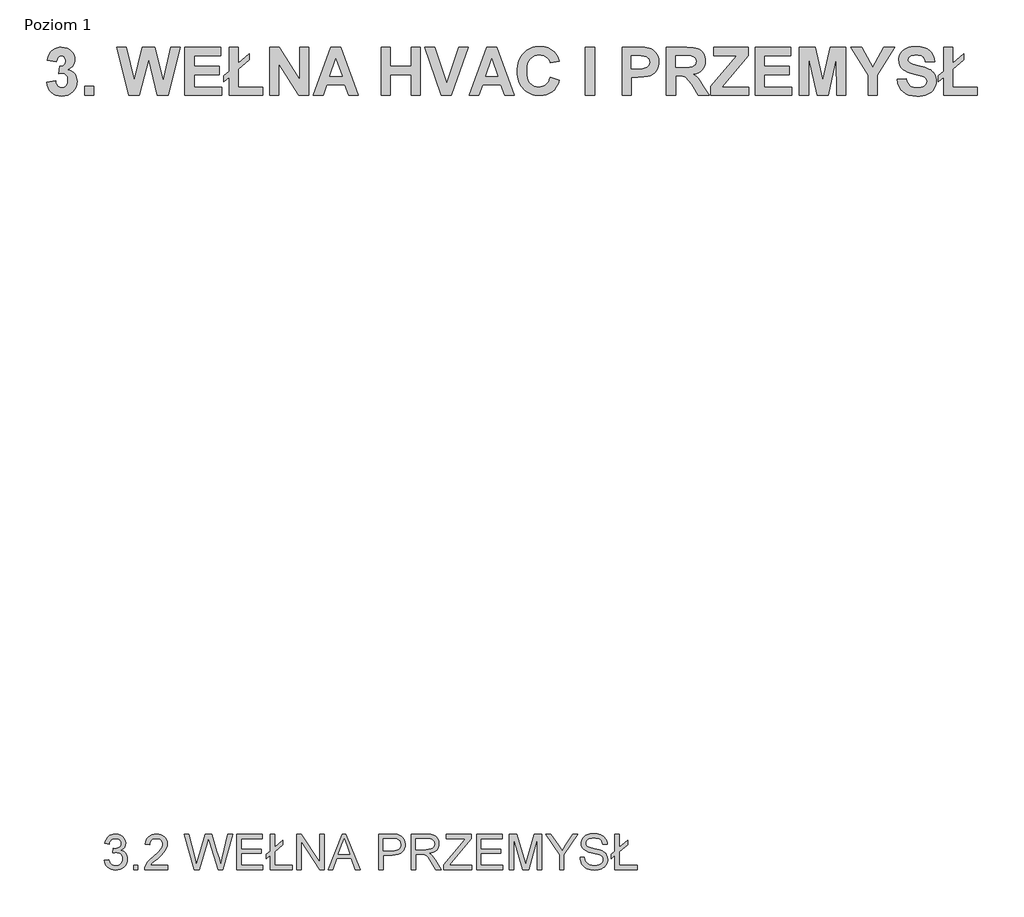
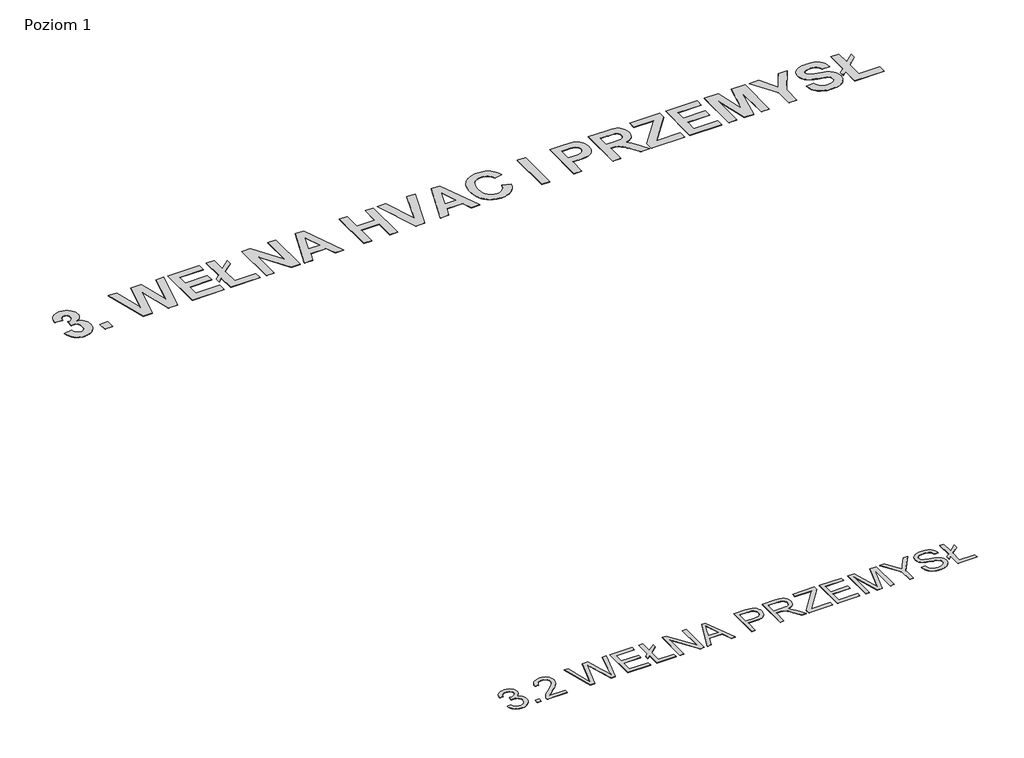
# One storey, part 1 of 2: 2 proxies.
"""IFC4 building model written with IfcOpenShell, lengths in millimetres."""

import ifcopenshell
import ifcopenshell.guid

model = None  # the IFC model being written
_history = None  # IfcOwnerHistory: only IFC2X3 demands one
_inside = {}  # id of a spatial element -> (the spatial element, [elements in it])
_under = {}  # id of a project, library or spatial element -> (it, [spatial elements below it])
_declared = {}  # id of a project -> (the project, [libraries it declares])
_typed = {}  # id of a type object -> (the type object, [elements of that type])
_made_of = {}  # id of a material, layer set ... -> (it, [elements and type objects made of it])


def new_model(schema):
    """Start an empty IFC model of exactly this schema.

    Asked for "IFC4X3", IfcOpenShell would pick the latest addendum, in which some entities
    have other attributes; the version numbers below select the first issue.
    IFC2X3 requires an IfcOwnerHistory on every rooted entity: one is made here for all.
    """
    global model, _history
    if schema == "IFC4X3":
        model = ifcopenshell.file(schema_version=(4, 3, 0, 0))
    else:
        model = ifcopenshell.file(schema=schema)
    _inside.clear()
    _under.clear()
    _declared.clear()
    _typed.clear()
    _made_of.clear()
    _history = None
    if model.schema == "IFC2X3":
        org = make("IfcOrganization", Name="unknown")
        user = make(
            "IfcPersonAndOrganization",
            ThePerson=make("IfcPerson", FamilyName="unknown"),
            TheOrganization=org,
        )
        app = make(
            "IfcApplication",
            ApplicationDeveloper=org,
            Version="unknown",
            ApplicationFullName="unknown",
            ApplicationIdentifier="unknown",
        )
        _history = make(
            "IfcOwnerHistory",
            OwningUser=user,
            OwningApplication=app,
            ChangeAction="ADDED",
            CreationDate=0,
        )
    return model


def make(cls, **values):
    """One entity of the class cls with the attributes given. An attribute that is None is left unset."""
    return model.create_entity(
        cls, **{name: value for name, value in values.items() if value is not None}
    )


def rooted(cls, **values):
    """An entity with a GlobalId (a new one), such as an element, a storey or a relation."""
    return make(cls, GlobalId=ifcopenshell.guid.new(), OwnerHistory=_history, **values)


def si_unit(unit_type, name, prefix=None):
    """IfcSIUnit, for example si_unit("LENGTHUNIT", "METRE", prefix="MILLI")."""
    return make("IfcSIUnit", UnitType=unit_type, Prefix=prefix, Name=name)


def assignment(units):
    """IfcUnitAssignment: the units of a project."""
    return None if units is None else make("IfcUnitAssignment", Units=units)


def point(xyz):
    """IfcCartesianPoint."""
    return None if xyz is None else make("IfcCartesianPoint", Coordinates=xyz)


def direction(xyz):
    """IfcDirection."""
    return None if xyz is None else make("IfcDirection", DirectionRatios=xyz)


def frame(location, z_axis=None, x_axis=None):
    """IfcAxis2Placement3D, a coordinate frame: its origin and axes. An axis left out is left unset."""
    return make(
        "IfcAxis2Placement3D",
        Location=point(location),
        Axis=direction(z_axis),
        RefDirection=direction(x_axis),
    )


def origin():
    """The frame at (0, 0, 0) with its axes left unset."""
    return frame((0.0, 0.0, 0.0))


def origin_with_axes():
    """The frame at (0, 0, 0) with the z axis (0, 0, 1) and the x axis (1, 0, 0) written out."""
    return frame((0.0, 0.0, 0.0), z_axis=(0.0, 0.0, 1.0), x_axis=(1.0, 0.0, 0.0))


def place(relative_to, where):
    """IfcLocalPlacement: puts the frame where relative to a parent placement (None: the world)."""
    return make(
        "IfcLocalPlacement", PlacementRelTo=relative_to, RelativePlacement=where
    )


def context(
    kind, dimensions, precision=None, world=None, true_north=None, identifier=None
):
    """IfcGeometricRepresentationContext, for example the 3D "Model" context."""
    return make(
        "IfcGeometricRepresentationContext",
        ContextIdentifier=identifier,
        ContextType=kind,
        CoordinateSpaceDimension=dimensions,
        Precision=precision,
        WorldCoordinateSystem=world,
        TrueNorth=true_north,
    )


def project(units=None, contexts=None):
    """IfcProject with its units and contexts."""
    return rooted(
        "IfcProject",
        Name="project",
        RepresentationContexts=contexts,
        UnitsInContext=assignment(units),
    )


def spatial(cls, under=None, at=None, **own):
    """A site, building, storey or space (cls), placed at a placement, below another one or the project."""
    s = rooted(cls, ObjectPlacement=at, **own)
    if under is not None:
        _under.setdefault(under.id(), (under, []))[1].append(s)
    return s


def polyline(points):
    """IfcPolyline through the points."""
    return make("IfcPolyline", Points=[point(p) for p in points])


def outline(outer, holes=None, kind="AREA"):
    """IfcArbitraryClosedProfileDef: a profile drawn as a closed curve; with holes, ...WithVoids."""
    if holes is None:
        return make("IfcArbitraryClosedProfileDef", ProfileType=kind, OuterCurve=outer)
    return make(
        "IfcArbitraryProfileDefWithVoids",
        ProfileType=kind,
        OuterCurve=outer,
        InnerCurves=holes,
    )


def extrude(swept, where, along, depth):
    """IfcExtrudedAreaSolid: the profile swept, set in the frame where, extruded along a direction by depth."""
    return make(
        "IfcExtrudedAreaSolid",
        SweptArea=swept,
        Position=where,
        ExtrudedDirection=direction(along),
        Depth=depth,
    )


def shape(context_of_items, identifier, shape_type, items):
    """IfcShapeRepresentation: the items that make up one representation, for example the "Body"."""
    return make(
        "IfcShapeRepresentation",
        ContextOfItems=context_of_items,
        RepresentationIdentifier=identifier,
        RepresentationType=shape_type,
        Items=items,
    )


def made_of(thing, what):
    """Note that an element or type object is made of a material, layer set ...; save() writes the relation."""
    if what is not None:
        _made_of.setdefault(what.id(), (what, []))[1].append(thing)
    return thing


def element(
    cls,
    number,
    at=None,
    inside=None,
    cuts=None,
    type_object=None,
    material=None,
    context=None,
    identifier="Body",
    shape_type=None,
    held_by="IfcProductDefinitionShape",
    body=None,
    shapes=None,
    **own,
):
    """One element of the class cls, such as IfcWall. Its Tag is "e" and its number.

    at: its placement. inside: the storey or other place that contains it. cuts: it is an
    opening in that element (IfcRelVoidsElement). A single representation is given by context,
    identifier, shape_type and body (its items); several are given by shapes. held_by: the class
    of the entity that holds the representations. save() writes the other relations.
    """
    e = rooted(cls, Tag="e%d" % number, ObjectPlacement=at, **own)
    if body is not None:
        shapes = [shape(context, identifier, shape_type, body)]
    if shapes is not None:
        e.Representation = make(held_by, Representations=shapes)
    if inside is not None:
        _inside.setdefault(inside.id(), (inside, []))[1].append(e)
    if cuts is not None:
        rooted(
            "IfcRelVoidsElement", RelatingBuildingElement=cuts, RelatedOpeningElement=e
        )
    if type_object is not None:
        _typed.setdefault(type_object.id(), (type_object, []))[1].append(e)
    return made_of(e, material)


def aggregate(whole, parts):
    """IfcRelAggregates: a whole, such as a stair, and the parts it consists of."""
    return rooted("IfcRelAggregates", RelatingObject=whole, RelatedObjects=parts)


def save(model, path):
    """Write the relations noted so far, then the file.

    IfcRelAggregates (storeys below a building ...), IfcRelContainedInSpatialStructure (elements
    in a storey), IfcRelDefinesByType, IfcRelAssociatesMaterial and IfcRelDeclares: one each for
    every whole, place, type object, material and project.
    """
    for whole, parts in _under.values():
        aggregate(whole, parts)
    for where, things in _inside.values():
        rooted(
            "IfcRelContainedInSpatialStructure",
            RelatedElements=things,
            RelatingStructure=where,
        )
    for kind, things in _typed.values():
        rooted("IfcRelDefinesByType", RelatedObjects=things, RelatingType=kind)
    for what, things in _made_of.values():
        rooted("IfcRelAssociatesMaterial", RelatedObjects=things, RelatingMaterial=what)
    for by, libraries in _declared.values():
        rooted("IfcRelDeclares", RelatingContext=by, RelatedDefinitions=libraries)
    model.write(path)


model = new_model("IFC4")

# Units and contexts
model_context = context("Model", 3, world=origin())
ifc_project = project(units=[si_unit("LENGTHUNIT", "METRE", prefix="MILLI")], contexts=[model_context])

# Site, building, storey
site = spatial("IfcSite", under=ifc_project)
building = spatial("IfcBuilding", under=site)
storey = spatial("IfcBuildingStorey", under=building, Name="Poziom 1", Elevation=0.0)

# Proxies
placement = place(None, origin())
element("IfcBuildingElementProxy", 1, Name="600 mm Arial", ObjectType="600 mm Arial", at=placement, inside=storey, context=model_context, shape_type="SweptSolid", body=[
    extrude(outline(polyline([(-15109.6367066, 5208.1027492), (-15035.7905528, 5217.3335184), (-15019.2581009, 5170.9272684), (-15008.1117667, 5153.3761867), (-14995.0453605, 5139.5931338), (-14979.7614062, 5129.1814751), (-14961.9624278, 5121.7445761), (-14941.6484254, 5117.2824367), (-14918.8193989, 5115.7950569), (-14892.0645913, 5117.8413309), (-14868.1943989, 5123.980153), (-14847.208822, 5134.2115232), (-14829.1078605, 5148.5354415), (-14814.5315384, 5165.8791915), (-14804.1198797, 5185.1700569), (-14797.8728845, 5206.4080376), (-14795.7905528, 5229.5931338), (-14797.8548557, 5251.6739631), (-14804.0477643, 5271.7626049), (-14814.3692788, 5289.8590593), (-14828.8193989, 5305.9633261), (-14846.4516105, 5319.1829775), (-14866.3193989, 5328.6255857), (-14888.4227643, 5334.2911506), (-14912.7617066, 5336.1796723), (-14936.0910336, 5334.1604415), (-14964.5405528, 5328.1027492), (-14956.3193989, 5401.948903), (-14944.4924759, 5401.0835184), (-14900.2496874, 5406.3839992), (-14860.6943989, 5422.2854415), (-14844.4143509, 5434.3106819), (-14832.7857451, 5449.1844799), (-14825.8085816, 5466.9068357), (-14823.4828605, 5487.4777492), (-14825.1685576, 5504.1769679), (-14830.2256489, 5519.370778), (-14838.6541345, 5533.0591795), (-14850.4540143, 5545.2421723), (-14864.9131489, 5555.2436747), (-14881.3193989, 5562.3876049), (-14919.9732451, 5568.1027492), (-14958.6992066, 5562.3335184), (-14975.411947, 5555.1219799), (-14990.3578605, 5545.0258261), (-15003.1673557, 5532.0450569), (-15013.4708413, 5516.1796723), (-15021.2683172, 5497.4296723), (-15026.5597836, 5475.7950569), (-15100.4059374, 5485.0258261), (-15091.6529326, 5520.2812348), (-15078.6631489, 5551.3359223), (-15061.4365864, 5578.1898886), (-15039.9732451, 5600.8431338), (-15014.9492066, 5618.8269078), (-14987.0405528, 5631.6724607), (-14956.2472836, 5639.3797924), (-14922.5693989, 5641.948903), (-14876.1451201, 5636.8827973), (-14833.5068989, 5621.6844799), (-14797.5573797, 5597.7061146), (-14771.1992066, 5566.2998646), (-14755.0273316, 5530.1159703), (-14749.6367066, 5491.8046723), (-14754.7568989, 5456.1075569), (-14770.1174759, 5423.7277492), (-14795.5020913, 5396.1436146), (-14830.6943989, 5374.8335184), (-14806.0850239, 5367.1352011), (-14784.4684374, 5356.1556338), (-14765.8446393, 5341.8948165), (-14750.2136297, 5324.3527492), (-14737.8458413, 5303.9621242), (-14729.0117066, 5281.1556338), (-14723.7112259, 5255.933278), (-14721.9443989, 5228.2950569), (-14725.4780528, 5190.8311146), (-14736.0790143, 5156.323903), (-14753.7472836, 5124.7734223), (-14778.4828605, 5096.1796723), (-14808.6180768, 5072.4537107), (-14842.4852643, 5055.5065953), (-14880.084423, 5045.3383261), (-14921.4155528, 5041.948903), (-14958.771322, 5044.8425328), (-14992.8097836, 5053.5234223), (-15023.5309374, 5067.9915713), (-15050.9347836, 5088.2469799), (-15073.912548, 5113.0997444), (-15091.3554566, 5141.3599607), (-15103.2635095, 5173.027629), (-15109.6367066, 5208.1027492)])), origin_with_axes(), (0.0, 0.0, 1.0), 5.0),
    extrude(outline(polyline([(-14620.4059374, 5051.1796723), (-14620.4059374, 5125.0258261), (-14546.5597836, 5125.0258261), (-14546.5597836, 5051.1796723), (-14620.4059374, 5051.1796723)])), origin_with_axes(), (0.0, 0.0, 1.0), 5.0),
    extrude(outline(polyline([(-14048.0982451, 5125.0258261), (-14048.0982451, 5051.1796723), (-14435.7905528, 5051.1796723), (-14434.1679566, 5077.1772684), (-14427.8578605, 5102.0931338), (-14409.6487259, 5141.8827973), (-14383.0020913, 5180.4825569), (-14344.4564182, 5220.8852011), (-14290.5501682, 5266.0835184), (-14210.8626682, 5336.8647684), (-14163.0501682, 5389.1123646), (-14149.1048557, 5410.4585184), (-14139.1439182, 5431.5162107), (-14133.1673557, 5452.2854415), (-14131.1751682, 5472.7662107), (-14133.0546754, 5492.03454), (-14138.693197, 5509.7433742), (-14148.0907331, 5525.8927131), (-14161.2472836, 5540.4825569), (-14177.4326802, 5552.566391), (-14195.9167547, 5561.1977011), (-14216.6995071, 5566.3764872), (-14239.7809374, 5568.1027492), (-14264.0973437, 5566.4170521), (-14285.8446393, 5561.3599607), (-14305.0228244, 5552.9314751), (-14321.6318989, 5541.1315953), (-14335.0678965, 5526.3569559), (-14344.7268509, 5509.0041915), (-14350.6087619, 5489.0733021), (-14352.7136297, 5466.5642876), (-14426.5597836, 5475.7950569), (-14420.2091225, 5513.9170521), (-14408.6571393, 5547.2253453), (-14391.903834, 5575.7199367), (-14369.9492066, 5599.4008261), (-14343.2980648, 5618.0156098), (-14312.4552163, 5631.3118838), (-14277.420661, 5639.2896482), (-14238.1943989, 5641.948903), (-14198.6165744, 5638.9921723), (-14163.3927163, 5630.1219799), (-14132.5228244, 5615.3383261), (-14106.0068989, 5594.6412107), (-14084.7103244, 5569.5630857), (-14069.4984855, 5541.636403), (-14060.3713821, 5510.8611626), (-14057.3290143, 5477.2373646), (-14060.6102643, 5441.9188549), (-14070.4540143, 5407.2133261), (-14087.9239663, 5371.9128453), (-14114.083822, 5334.8094799), (-14155.7845432, 5290.5126049), (-14219.8770913, 5233.6315953), (-14304.8290143, 5162.5979415), (-14338.146322, 5125.0258261), (-14048.0982451, 5125.0258261)])), origin_with_axes(), (0.0, 0.0, 1.0), 5.0),
    extrude(outline(polyline([(-13610.0693989, 5051.1796723), (-13771.1751682, 5641.948903), (-13695.021322, 5641.948903), (-13601.5597836, 5253.6796723), (-13572.7136297, 5133.823903), (-13541.8482451, 5239.8335184), (-13424.7328605, 5641.948903), (-13314.9732451, 5641.948903), (-13229.8770913, 5350.4585184), (-13193.4227643, 5242.2854415), (-13166.5597836, 5133.823903), (-13138.5790143, 5250.2181338), (-13044.2520913, 5641.948903), (-12968.0982451, 5641.948903), (-13129.3482451, 5051.1796723), (-13208.2424759, 5051.1796723), (-13349.8770913, 5506.948903), (-13369.6367066, 5570.5546723), (-13391.8482451, 5493.9681338), (-13520.9347836, 5051.1796723), (-13610.0693989, 5051.1796723)])), origin_with_axes(), (0.0, 0.0, 1.0), 5.0),
    extrude(outline(polyline([(-12894.2520913, 5051.1796723), (-12894.2520913, 5641.948903), (-12469.6367066, 5641.948903), (-12469.6367066, 5568.1027492), (-12820.4059374, 5568.1027492), (-12820.4059374, 5392.7181338), (-12488.0982451, 5392.7181338), (-12488.0982451, 5318.8719799), (-12820.4059374, 5318.8719799), (-12820.4059374, 5125.0258261), (-12460.4059374, 5125.0258261), (-12460.4059374, 5051.1796723), (-12894.2520913, 5051.1796723)])), origin_with_axes(), (0.0, 0.0, 1.0), 5.0),
    extrude(outline(polyline([(-12340.4059374, 5284.9777492), (-12405.021322, 5231.1796723), (-12405.021322, 5305.0258261), (-12340.4059374, 5358.823903), (-12340.4059374, 5641.948903), (-12266.5597836, 5641.948903), (-12266.5597836, 5420.4104415), (-12128.0982451, 5535.7950569), (-12128.0982451, 5461.948903), (-12266.5597836, 5346.5642876), (-12266.5597836, 5125.0258261), (-11971.1751682, 5125.0258261), (-11971.1751682, 5051.1796723), (-12340.4059374, 5051.1796723), (-12340.4059374, 5284.9777492)])), origin_with_axes(), (0.0, 0.0, 1.0), 5.0),
    extrude(outline(polyline([(-11897.3290143, 5051.1796723), (-11897.3290143, 5641.948903), (-11818.2905528, 5641.948903), (-11509.6367066, 5173.9200569), (-11509.6367066, 5641.948903), (-11435.7905528, 5641.948903), (-11435.7905528, 5051.1796723), (-11514.8290143, 5051.1796723), (-11823.4828605, 5519.3527492), (-11823.4828605, 5051.1796723), (-11897.3290143, 5051.1796723)])), origin_with_axes(), (0.0, 0.0, 1.0), 5.0),
    extrude(outline(polyline([(-11375.3578605, 5051.1796723), (-11139.5405528, 5641.948903), (-11076.6559374, 5641.948903), (-10840.8386297, 5051.1796723), (-10918.8674759, 5051.1796723), (-10986.5117066, 5235.7950569), (-11229.8290143, 5235.7950569), (-11297.3290143, 5051.1796723), (-11375.3578605, 5051.1796723)]), holes=[polyline([(-11202.7136297, 5309.6412107), (-11013.4828605, 5309.6412107), (-11066.7040143, 5454.8815953), (-11108.0982451, 5568.1027492), (-11144.8770913, 5467.573903), (-11202.7136297, 5309.6412107)])]), origin_with_axes(), (0.0, 0.0, 1.0), 5.0),
    extrude(outline(polyline([(-10531.1751682, 5051.1796723), (-10531.1751682, 5641.948903), (-10312.2328605, 5641.948903), (-10261.2472836, 5640.542653), (-10223.9636297, 5636.323903), (-10184.6066586, 5625.8130857), (-10152.208822, 5608.7037107), (-10126.1210816, 5584.2205376), (-10105.6943989, 5551.5883261), (-10092.4972836, 5513.0967396), (-10088.0982451, 5471.0354415), (-10091.0684975, 5434.7704174), (-10099.9792547, 5401.4080376), (-10114.8305167, 5370.9483021), (-10135.6222836, 5343.3912107), (-10164.1664542, 5320.5486626), (-10202.2749278, 5304.2325569), (-10249.9477042, 5294.4428934), (-10307.1847836, 5291.1796723), (-10457.3290143, 5291.1796723), (-10457.3290143, 5051.1796723), (-10531.1751682, 5051.1796723)]), holes=[polyline([(-10457.3290143, 5365.0258261), (-10302.8578605, 5365.0258261), (-10267.3410336, 5366.7205376), (-10237.3770913, 5371.8046723), (-10212.9660336, 5380.2782299), (-10194.1078605, 5392.1412107), (-10180.0363461, 5407.0781098), (-10169.9852643, 5424.7734223), (-10163.9546153, 5445.2271482), (-10161.9443989, 5468.4392876), (-10166.6859855, 5501.6123646), (-10180.9107451, 5529.5931338), (-10202.8518509, 5550.6508261), (-10230.7424759, 5563.0546723), (-10259.2280528, 5566.8407299), (-10304.5886297, 5568.1027492), (-10457.3290143, 5568.1027492), (-10457.3290143, 5365.0258261)])]), origin_with_axes(), (0.0, 0.0, 1.0), 5.0),
    extrude(outline(polyline([(-9986.5597836, 5051.1796723), (-9986.5597836, 5641.948903), (-9731.9924759, 5641.948903), (-9663.5730047, 5637.964528), (-9613.7953605, 5626.011403), (-9594.5856249, 5616.5102011), (-9577.4131489, 5603.9440953), (-9562.2779326, 5588.3130857), (-9549.1799759, 5569.6171723), (-9538.6105648, 5548.8614631), (-9531.0609855, 5527.0510665), (-9525.021322, 5480.2662107), (-9527.5228244, 5449.9236626), (-9535.0273316, 5422.0690953), (-9547.5348437, 5396.7025088), (-9565.0453605, 5373.823903), (-9587.7842427, 5354.1634463), (-9615.9768509, 5338.4513069), (-9649.623185, 5326.6874848), (-9688.7232451, 5318.8719799), (-9664.3843028, 5302.9705376), (-9646.7520913, 5287.2854415), (-9586.896322, 5211.2758261), (-9488.3867066, 5051.1796723), (-9574.2040143, 5051.1796723), (-9651.0790143, 5173.6315953), (-9706.6078605, 5254.6892876), (-9727.2508893, 5278.3251049), (-9745.6222836, 5292.9825569), (-9780.7424759, 5307.0450569), (-9823.5790143, 5309.6412107), (-9912.7136297, 5309.6412107), (-9912.7136297, 5051.1796723), (-9986.5597836, 5051.1796723)]), holes=[polyline([(-9912.7136297, 5383.4873646), (-9747.4251682, 5383.4873646), (-9699.9552163, 5386.1015473), (-9663.1222836, 5393.9440953), (-9635.3939182, 5407.5378453), (-9615.2376682, 5427.4056338), (-9602.9600239, 5451.4380857), (-9598.8674759, 5477.5258261), (-9600.8190985, 5496.4110424), (-9606.6739663, 5513.5474607), (-9616.4320792, 5528.9350809), (-9630.0934374, 5542.573903), (-9647.9735456, 5553.7427732), (-9670.3879086, 5561.7205376), (-9697.3365263, 5566.5071963), (-9728.8193989, 5568.1027492), (-9912.7136297, 5568.1027492), (-9912.7136297, 5383.4873646)])]), origin_with_axes(), (0.0, 0.0, 1.0), 5.0),
    extrude(outline(polyline([(-9441.9443989, 5051.1796723), (-9441.9443989, 5127.7662107), (-9139.7809374, 5497.7181338), (-9082.3770913, 5568.1027492), (-9405.021322, 5568.1027492), (-9405.021322, 5641.948903), (-8989.6367066, 5641.948903), (-8989.6367066, 5568.1027492), (-9320.3578605, 5163.2469799), (-9351.5117066, 5125.0258261), (-8980.4059374, 5125.0258261), (-8980.4059374, 5051.1796723), (-9441.9443989, 5051.1796723)])), origin_with_axes(), (0.0, 0.0, 1.0), 5.0),
    extrude(outline(polyline([(-8897.3290143, 5051.1796723), (-8897.3290143, 5641.948903), (-8472.7136297, 5641.948903), (-8472.7136297, 5568.1027492), (-8823.4828605, 5568.1027492), (-8823.4828605, 5392.7181338), (-8491.1751682, 5392.7181338), (-8491.1751682, 5318.8719799), (-8823.4828605, 5318.8719799), (-8823.4828605, 5125.0258261), (-8463.4828605, 5125.0258261), (-8463.4828605, 5051.1796723), (-8897.3290143, 5051.1796723)])), origin_with_axes(), (0.0, 0.0, 1.0), 5.0),
    extrude(outline(polyline([(-8352.7136297, 5051.1796723), (-8352.7136297, 5641.948903), (-8225.646322, 5641.948903), (-8104.7809374, 5225.5546723), (-8080.4059374, 5138.5835184), (-8054.0117066, 5232.7662107), (-7935.1655528, 5641.948903), (-7808.0982451, 5641.948903), (-7808.0982451, 5051.1796723), (-7881.9443989, 5051.1796723), (-7881.9443989, 5568.1027492), (-8030.3578605, 5051.1796723), (-8130.4540143, 5051.1796723), (-8278.8674759, 5568.1027492), (-8278.8674759, 5051.1796723), (-8352.7136297, 5051.1796723)])), origin_with_axes(), (0.0, 0.0, 1.0), 5.0),
    extrude(outline(polyline([(-7512.7136297, 5051.1796723), (-7512.7136297, 5301.4200569), (-7743.4828605, 5641.948903), (-7656.3674759, 5641.948903), (-7533.1943989, 5460.073903), (-7470.1655528, 5367.3335184), (-7406.9924759, 5466.7085184), (-7295.2136297, 5641.948903), (-7208.0982451, 5641.948903), (-7438.8674759, 5301.4200569), (-7438.8674759, 5051.1796723), (-7512.7136297, 5051.1796723)])), origin_with_axes(), (0.0, 0.0, 1.0), 5.0),
    extrude(outline(polyline([(-7171.1751682, 5254.2565953), (-7097.3290143, 5254.2565953), (-7088.8554566, 5213.277028), (-7073.5309374, 5180.3383261), (-7049.6246874, 5154.1964992), (-7015.4059374, 5133.6075569), (-6973.5790143, 5120.2481819), (-6926.8482451, 5115.7950569), (-6885.7064182, 5119.1664511), (-6849.6847836, 5129.2806338), (-6820.4960816, 5145.2902492), (-6799.8530528, 5166.3479415), (-6787.5754086, 5190.5246242), (-6783.4828605, 5215.8912107), (-6786.5477643, 5240.6087588), (-6795.7424759, 5261.9729415), (-6814.4203605, 5280.2001049), (-6845.9347836, 5295.5065953), (-6953.458822, 5323.7037107), (-7024.0417547, 5342.3635665), (-7069.2040143, 5360.1219799), (-7105.9648316, 5384.9657299), (-7132.0165143, 5415.073903), (-7147.5393509, 5449.7974607), (-7152.7136297, 5488.4873646), (-7151.1135696, 5510.4780497), (-7146.3133893, 5531.7385665), (-7138.3130888, 5552.268915), (-7127.1126682, 5572.0690953), (-7112.8383292, 5590.3323165), (-7095.6162739, 5606.2517876), (-7075.4465023, 5619.8275088), (-7052.3290143, 5631.0594799), (-7000.3698797, 5646.1496242), (-6942.8578605, 5651.1796723), (-6880.5501682, 5645.9152492), (-6826.0309374, 5630.1219799), (-6802.1787739, 5618.3581578), (-6781.2472836, 5604.1243838), (-6763.2364663, 5587.4206578), (-6748.146322, 5568.2469799), (-6736.0940384, 5547.1622444), (-6727.1968028, 5524.7253453), (-6721.4546153, 5500.9362828), (-6718.8674759, 5475.7950569), (-6792.7136297, 5475.7950569), (-6797.6535336, 5499.3587588), (-6806.271322, 5519.8575569), (-6818.5669951, 5537.2914511), (-6834.5405528, 5551.6604415), (-6854.4894711, 5562.8924126), (-6878.7112259, 5570.9152492), (-6907.2058172, 5575.7289511), (-6939.9732451, 5577.3335184), (-6973.7863461, 5575.7469799), (-7002.677572, 5570.9873646), (-7026.646923, 5563.0546723), (-7045.6943989, 5551.948903), (-7060.2076201, 5538.5985424), (-7070.5742066, 5523.9320761), (-7076.7941586, 5507.949504), (-7078.8674759, 5490.6508261), (-7072.990072, 5462.2734223), (-7055.3578605, 5439.448903), (-7039.1679566, 5429.2986626), (-7013.6751682, 5419.0402492), (-6934.7809374, 5398.198903), (-6853.3626682, 5378.4032299), (-6804.1078605, 5361.1315953), (-6762.0105047, 5334.3407299), (-6745.7349638, 5318.5925328), (-6732.6415143, 5301.2758261), (-6722.576911, 5282.480754), (-6715.3879086, 5262.2974607), (-6709.6367066, 5217.7662107), (-6711.2908533, 5194.6667516), (-6716.2532932, 5172.2433742), (-6724.5240263, 5150.4960785), (-6736.1030528, 5129.4248646), (-6750.787548, 5109.8455376), (-6768.3746874, 5092.573903), (-6788.8644711, 5077.6099607), (-6812.2568989, 5064.9537107), (-6837.8713821, 5054.8891073), (-6865.0273316, 5047.7001049), (-6923.9636297, 5041.948903), (-6961.7385696, 5043.4993838), (-6996.3133893, 5048.1508261), (-7027.6880888, 5055.9032299), (-7055.8626682, 5066.7565953), (-7081.0084013, 5080.7289511), (-7103.2965624, 5097.8383261), (-7122.7271513, 5118.0847203), (-7139.3001682, 5141.4681338), (-7152.6505288, 5167.2313549), (-7162.4131489, 5194.6171723), (-7168.5880288, 5223.6255857), (-7171.1751682, 5254.2565953)])), origin_with_axes(), (0.0, 0.0, 1.0), 5.0),
    extrude(outline(polyline([(-6589.6367066, 5284.9777492), (-6654.2520913, 5231.1796723), (-6654.2520913, 5305.0258261), (-6589.6367066, 5358.823903), (-6589.6367066, 5641.948903), (-6515.7905528, 5641.948903), (-6515.7905528, 5420.4104415), (-6377.3290143, 5535.7950569), (-6377.3290143, 5461.948903), (-6515.7905528, 5346.5642876), (-6515.7905528, 5125.0258261), (-6220.4059374, 5125.0258261), (-6220.4059374, 5051.1796723), (-6589.6367066, 5051.1796723), (-6589.6367066, 5284.9777492)])), origin_with_axes(), (0.0, 0.0, 1.0), 5.0),
])
element("IfcBuildingElementProxy", 2, Name="800", ObjectType="800", at=placement, inside=storey, context=model_context, shape_type="SweptSolid", body=[
    extrude(outline(polyline([(-16071.0553841, 18188.3091898), (-15918.0553841, 18206.0396585), (-15913.5107064, 18179.7925882), (-15906.2516732, 18156.8326273), (-15896.2782845, 18137.1597757), (-15883.5905404, 18120.7740335), (-15868.8109993, 18107.8746195), (-15852.56222, 18098.6607523), (-15834.8442025, 18093.132432), (-15815.6569466, 18091.2896585), (-15795.0004525, 18093.4001322), (-15776.06222, 18099.7315531), (-15758.8422493, 18110.2839212), (-15743.3405404, 18125.0572367), (-15730.5282845, 18143.4040384), (-15721.3766732, 18164.6768656), (-15715.8857064, 18188.8757181), (-15714.0553841, 18216.000596), (-15715.7300667, 18241.6873636), (-15720.7541146, 18264.5601664), (-15729.1275277, 18284.6190042), (-15740.850306, 18301.8638773), (-15754.9886116, 18315.7220316), (-15770.6086068, 18325.6207132), (-15787.7102913, 18331.5599222), (-15806.2936654, 18333.5396585), (-15834.234095, 18330.7007914), (-15867.0553841, 18322.1841898), (-15853.7077279, 18448.2896585), (-15830.4676156, 18449.2608499), (-15810.1535286, 18453.7681742), (-15792.7654671, 18461.8116312), (-15778.303431, 18473.391221), (-15766.9292855, 18487.8345804), (-15758.8048958, 18504.469346), (-15753.930262, 18523.2955179), (-15752.3053841, 18544.313096), (-15757.1613411, 18578.1553812), (-15771.7292122, 18604.3775492), (-15782.2442269, 18614.182847), (-15794.3654427, 18621.1866312), (-15823.4264779, 18626.7896585), (-15838.7849984, 18625.1647806), (-15852.9855599, 18620.2901468), (-15866.0281624, 18612.1657572), (-15877.912806, 18600.7916117), (-15888.1040902, 18586.292222), (-15896.0666146, 18568.7920999), (-15905.3053841, 18524.7896585), (-16058.3053841, 18547.6998148), (-16040.7990365, 18616.1563578), (-16029.3750863, 18644.6508646), (-16016.1706185, 18669.3228617), (-16000.6813607, 18690.8696146), (-15982.4030404, 18709.988389), (-15961.3356575, 18726.6791849), (-15937.4792122, 18740.9420023), (-15911.4749398, 18752.3597269), (-15883.9640755, 18760.5152445), (-15854.9466195, 18765.408555), (-15824.4225716, 18767.0396585), (-15773.4972786, 18762.5198832), (-15727.9010872, 18748.960557), (-15687.6339974, 18726.36168), (-15652.6960091, 18694.7232523), (-15629.3376107, 18664.1680765), (-15612.6530404, 18631.6705179), (-15602.6422982, 18597.2305765), (-15599.3053841, 18560.8482523), (-15601.0952401, 18535.0712137), (-15606.4648079, 18510.6326761), (-15615.4140877, 18487.5326395), (-15627.9430794, 18465.7711039), (-15644.051783, 18445.3480692), (-15663.7401986, 18426.2635355), (-15713.8561654, 18392.109971), (-15680.8356575, 18382.4789896), (-15651.3014779, 18368.3282328), (-15625.2536263, 18349.6577005), (-15602.6921029, 18326.4673929), (-15584.4760384, 18299.6786966), (-15571.4645638, 18270.2129984), (-15563.657679, 18238.0702982), (-15561.0553841, 18203.250596), (-15565.6685433, 18152.8793802), (-15579.5080208, 18106.3555765), (-15602.5738167, 18063.6791849), (-15634.865931, 18024.8502054), (-15674.0310921, 17992.5580912), (-15717.7160286, 17969.4922953), (-15765.9207406, 17955.6528177), (-15818.6452279, 17951.0396585), (-15868.5183968, 17955.1423197), (-15913.9464974, 17967.4503031), (-15954.9295296, 17987.9636087), (-15991.4674935, 18016.6822367), (-16022.1783089, 18052.024888), (-16045.6798958, 18092.410264), (-16061.9722542, 18137.8383646), (-16071.0553841, 18188.3091898)])), origin_with_axes(), (0.0, 0.0, 1.0), 5.0),
    extrude(outline(polyline([(-15433.5553841, 17963.7896585), (-15433.5553841, 18116.7896585), (-15280.5553841, 18116.7896585), (-15280.5553841, 17963.7896585), (-15433.5553841, 17963.7896585)])), origin_with_axes(), (0.0, 0.0, 1.0), 5.0),
    extrude(outline(polyline([(-14695.8483529, 17963.7896585), (-14898.0553841, 18767.0396585), (-14741.0710091, 18767.0396585), (-14611.1803841, 18215.203721), (-14471.5280404, 18767.0396585), (-14265.7350716, 18767.0396585), (-14126.6803841, 18206.0396585), (-13996.7897591, 18767.0396585), (-13839.8053841, 18767.0396585), (-14039.0241341, 17963.7896585), (-14220.1139779, 17963.7896585), (-14368.9303841, 18564.234971), (-14520.7350716, 17963.7896585), (-14695.8483529, 17963.7896585)])), origin_with_axes(), (0.0, 0.0, 1.0), 5.0),
    extrude(outline(polyline([(-13763.3053841, 17963.7896585), (-13763.3053841, 18767.0396585), (-13164.0553841, 18767.0396585), (-13164.0553841, 18626.7896585), (-13610.3053841, 18626.7896585), (-13610.3053841, 18448.2896585), (-13189.5553841, 18448.2896585), (-13189.5553841, 18308.0396585), (-13610.3053841, 18308.0396585), (-13610.3053841, 18104.0396585), (-13151.3053841, 18104.0396585), (-13151.3053841, 17963.7896585), (-13763.3053841, 17963.7896585)])), origin_with_axes(), (0.0, 0.0, 1.0), 5.0),
    extrude(outline(polyline([(-13023.8053841, 18367.406846), (-13023.8053841, 18767.0396585), (-12870.8053841, 18767.0396585), (-12870.8053841, 18501.8795023), (-12692.3053841, 18658.6646585), (-12692.3053841, 18561.047471), (-12870.8053841, 18404.2623148), (-12870.8053841, 18104.0396585), (-12462.8053841, 18104.0396585), (-12462.8053841, 17963.7896585), (-13023.8053841, 17963.7896585), (-13023.8053841, 18269.7896585), (-13113.0553841, 18191.297471), (-13113.0553841, 18288.9146585), (-13023.8053841, 18367.406846)])), origin_with_axes(), (0.0, 0.0, 1.0), 5.0),
    extrude(outline(polyline([(-12348.0553841, 17963.7896585), (-12348.0553841, 18767.0396585), (-12187.6842904, 18767.0396585), (-11850.8053841, 18226.359971), (-11850.8053841, 18767.0396585), (-11697.8053841, 18767.0396585), (-11697.8053841, 17963.7896585), (-11863.1569466, 17963.7896585), (-12195.0553841, 18496.500596), (-12195.0553841, 17963.7896585), (-12348.0553841, 17963.7896585)])), origin_with_axes(), (0.0, 0.0, 1.0), 5.0),
    extrude(outline(polyline([(-10869.0553841, 17963.7896585), (-11029.8249154, 17963.7896585), (-11092.7780404, 18142.2896585), (-11396.1881966, 18142.2896585), (-11458.3444466, 17963.7896585), (-11621.3053841, 17963.7896585), (-11328.0553841, 18767.0396585), (-11165.0944466, 18767.0396585), (-10869.0553841, 17963.7896585)]), holes=[polyline([(-11141.7858529, 18282.5396585), (-11245.1803841, 18575.7896585), (-11347.1803841, 18282.5396585), (-11141.7858529, 18282.5396585)])]), origin_with_axes(), (0.0, 0.0, 1.0), 5.0),
    extrude(outline(polyline([(-10486.5553841, 17963.7896585), (-10486.5553841, 18767.0396585), (-10333.5553841, 18767.0396585), (-10333.5553841, 18448.2896585), (-9989.3053841, 18448.2896585), (-9989.3053841, 18767.0396585), (-9836.3053841, 18767.0396585), (-9836.3053841, 17963.7896585), (-9989.3053841, 17963.7896585), (-9989.3053841, 18308.0396585), (-10333.5553841, 18308.0396585), (-10333.5553841, 17963.7896585), (-10486.5553841, 17963.7896585)])), origin_with_axes(), (0.0, 0.0, 1.0), 5.0),
    extrude(outline(polyline([(-9489.0671029, 17963.7896585), (-9759.8053841, 18767.0396585), (-9598.4381966, 18767.0396585), (-9396.4303841, 18167.7896585), (-9193.8249154, 18767.0396585), (-9033.0553841, 18767.0396585), (-9318.1374154, 17963.7896585), (-9489.0671029, 17963.7896585)])), origin_with_axes(), (0.0, 0.0, 1.0), 5.0),
    extrude(outline(polyline([(-8268.0553841, 17963.7896585), (-8428.8249154, 17963.7896585), (-8491.7780404, 18142.2896585), (-8795.1881966, 18142.2896585), (-8857.3444466, 17963.7896585), (-9020.3053841, 17963.7896585), (-8727.0553841, 18767.0396585), (-8564.0944466, 18767.0396585), (-8268.0553841, 17963.7896585)]), holes=[polyline([(-8540.7858529, 18282.5396585), (-8644.1803841, 18575.7896585), (-8746.1803841, 18282.5396585), (-8540.7858529, 18282.5396585)])]), origin_with_axes(), (0.0, 0.0, 1.0), 5.0),
    extrude(outline(polyline([(-7668.8053841, 18269.7896585), (-7515.8053841, 18218.7896585), (-7536.9350228, 18158.29564), (-7564.0661263, 18106.1065531), (-7597.1986947, 18062.2223978), (-7636.3327279, 18026.6431742), (-7681.3063607, 17999.1447611), (-7731.9577279, 17979.5030374), (-7788.2868294, 17967.7180033), (-7850.2936654, 17963.7896585), (-7889.4930672, 17965.467454), (-7926.9057259, 17970.5008402), (-7962.5316414, 17978.8898172), (-7996.3708138, 17990.6343851), (-8028.423243, 18005.7345438), (-8058.688929, 18024.1902933), (-8087.1678719, 18046.0016336), (-8113.8600716, 18071.1685648), (-8138.046473, 18099.2459574), (-8159.0080208, 18129.788682), (-8176.7447152, 18162.7967386), (-8191.256556, 18198.2701273), (-8202.5435433, 18236.208848), (-8210.6056771, 18276.6129007), (-8215.4429574, 18319.4822855), (-8217.0553841, 18364.8170023), (-8215.4289498, 18412.6979837), (-8210.5496468, 18457.8272562), (-8202.4174752, 18500.2048197), (-8191.0324349, 18539.8306742), (-8176.394526, 18576.7048197), (-8158.5037484, 18610.8272562), (-8137.3601021, 18642.1979837), (-8112.9635872, 18670.8170023), (-8085.9149727, 18696.3574686), (-8056.8150277, 18718.4925394), (-8025.663752, 18737.2222147), (-7992.4611458, 18752.5464945), (-7957.2072091, 18764.4653788), (-7919.9019417, 18772.9788675), (-7880.5453438, 18778.0869608), (-7839.1374154, 18779.7896585), (-7768.5143685, 18774.17418), (-7704.8639779, 18757.3277445), (-7675.6535286, 18744.6929178), (-7648.1862435, 18729.2503519), (-7622.4621224, 18711.0000467), (-7598.4811654, 18689.9420023), (-7572.6200814, 18660.5447855), (-7550.2204232, 18625.3453226), (-7531.2821907, 18584.3436136), (-7515.8053841, 18537.5396585), (-7668.8053841, 18512.0396585), (-7678.4488167, 18540.0610208), (-7692.2384896, 18564.957139), (-7710.1744027, 18586.728013), (-7732.256556, 18605.3736429), (-7757.7129769, 18620.3212748), (-7785.7716927, 18630.9981546), (-7816.4327034, 18637.4042826), (-7849.6960091, 18639.5396585), (-7895.1614632, 18635.6611185), (-7936.1320443, 18624.0254984), (-7972.6077523, 18604.6327982), (-8004.5885872, 18577.4830179), (-8030.6053109, 18541.6547708), (-8049.1886849, 18496.2266703), (-8060.3387093, 18441.1987162), (-8064.0553841, 18376.5709085), (-8060.4507699, 18308.1641703), (-8049.6369271, 18250.3658304), (-8031.6138558, 18203.175889), (-8006.381556, 18166.594346), (-7975.3719124, 18139.2266703), (-7940.0168099, 18119.6783304), (-7900.3162484, 18107.9493265), (-7856.2702279, 18104.0396585), (-7823.4800667, 18106.5361185), (-7793.0431771, 18114.0254984), (-7764.9595589, 18126.5077982), (-7739.2292122, 18143.9830179), (-7716.4124398, 18166.8246927), (-7697.0695443, 18195.4063578), (-7681.2005257, 18229.728013), (-7668.8053841, 18269.7896585)])), origin_with_axes(), (0.0, 0.0, 1.0), 5.0),
    extrude(outline(polyline([(-7082.3053841, 17963.7896585), (-7082.3053841, 18767.0396585), (-6929.3053841, 18767.0396585), (-6929.3053841, 17963.7896585), (-7082.3053841, 17963.7896585)])), origin_with_axes(), (0.0, 0.0, 1.0), 5.0),
    extrude(outline(polyline([(-6470.3053841, 17963.7896585), (-6470.3053841, 18767.0396585), (-6211.5202279, 18767.0396585), (-6089.9469857, 18764.0513773), (-6019.6725716, 18755.0865335), (-5986.7080941, 18743.4758158), (-5956.5451302, 18726.5733499), (-5929.18368, 18704.3791361), (-5904.6237435, 18676.8931742), (-5884.3594613, 18644.5761576), (-5869.884974, 18607.8887796), (-5861.2002816, 18566.8310404), (-5858.3053841, 18521.4029398), (-5860.0049691, 18486.1100931), (-5865.103724, 18453.7432718), (-5873.6016488, 18424.3024759), (-5885.4987435, 18397.7877054), (-5916.3776497, 18353.063096), (-5934.581263, 18334.734971), (-5954.6276497, 18319.0962992), (-5996.8869271, 18295.3145609), (-6039.7936654, 18281.1451273), (-6111.7614388, 18272.6285257), (-6210.1256966, 18269.7896585), (-6317.3053841, 18269.7896585), (-6317.3053841, 17963.7896585), (-6470.3053841, 17963.7896585)]), holes=[polyline([(-6317.3053841, 18626.7896585), (-6317.3053841, 18410.0396585), (-6222.2780404, 18410.0396585), (-6136.6886849, 18413.0279398), (-6085.115931, 18421.9927835), (-6054.2868294, 18437.3575296), (-6030.928431, 18459.5455179), (-6016.2111458, 18487.2120218), (-6011.3053841, 18519.0123148), (-6013.0298714, 18538.9217386), (-6018.2033333, 18557.0132914), (-6026.8257699, 18573.286973), (-6038.897181, 18587.7427835), (-6070.0998177, 18609.7564554), (-6108.5241341, 18621.609971), (-6155.2907357, 18625.4947367), (-6233.4342904, 18626.7896585), (-6317.3053841, 18626.7896585)])]), origin_with_axes(), (0.0, 0.0, 1.0), 5.0),
    extrude(outline(polyline([(-5730.8053841, 17963.7896585), (-5730.8053841, 18767.0396585), (-5392.9303841, 18767.0396585), (-5282.8620247, 18761.6109476), (-5240.9015755, 18754.8250589), (-5207.6569466, 18745.3248148), (-5180.2145638, 18732.3506937), (-5155.6608529, 18715.1431742), (-5133.9958138, 18693.7022562), (-5115.2194466, 18668.0279398), (-5100.0539193, 18639.2283792), (-5089.2213997, 18608.4117289), (-5082.721888, 18575.5779886), (-5080.5553841, 18540.7271585), (-5083.6868538, 18497.2850199), (-5093.081263, 18457.8023539), (-5108.7386116, 18422.2791605), (-5130.6588997, 18390.7154398), (-5158.8172249, 18363.8707132), (-5193.1886849, 18342.5045023), (-5233.7732796, 18326.616807), (-5280.5710091, 18316.2076273), (-5236.1950325, 18284.2330179), (-5200.2858529, 18249.2701273), (-5163.131556, 18198.6187601), (-5115.0202279, 18119.578721), (-5016.8053841, 17963.7896585), (-5195.5046029, 17963.7896585), (-5311.8483529, 18147.2701273), (-5368.0529427, 18217.7188578), (-5403.1901497, 18256.1431742), (-5428.5407357, 18275.0440531), (-5455.3854622, 18286.922471), (-5491.0207161, 18293.1978617), (-5542.7428841, 18295.2896585), (-5577.8053841, 18295.2896585), (-5577.8053841, 17963.7896585), (-5730.8053841, 17963.7896585)]), holes=[polyline([(-5577.8053841, 18435.5396585), (-5451.6999154, 18435.5396585), (-5352.1652474, 18437.8555765), (-5298.600306, 18444.8033304), (-5271.3571419, 18457.4039164), (-5250.787806, 18476.6783304), (-5237.8634896, 18502.1036234), (-5233.5553841, 18533.156846), (-5239.2331185, 18567.5469828), (-5246.3302865, 18581.9965677), (-5256.2663216, 18594.6158304), (-5283.6588997, 18613.7159281), (-5320.4147591, 18624.1998148), (-5444.7272591, 18626.7896585), (-5577.8053841, 18626.7896585), (-5577.8053841, 18435.5396585)])]), origin_with_axes(), (0.0, 0.0, 1.0), 5.0),
    extrude(outline(polyline([(-4991.3053841, 17963.7896585), (-4991.3053841, 18116.7896585), (-4560.7936654, 18626.7896585), (-4940.3053841, 18626.7896585), (-4940.3053841, 18767.0396585), (-4366.5553841, 18767.0396585), (-4366.5553841, 18626.7896585), (-4807.8249154, 18104.0396585), (-4353.8053841, 18104.0396585), (-4353.8053841, 17963.7896585), (-4991.3053841, 17963.7896585)])), origin_with_axes(), (0.0, 0.0, 1.0), 5.0),
    extrude(outline(polyline([(-4251.8053841, 17963.7896585), (-4251.8053841, 18767.0396585), (-3652.5553841, 18767.0396585), (-3652.5553841, 18626.7896585), (-4098.8053841, 18626.7896585), (-4098.8053841, 18448.2896585), (-3678.0553841, 18448.2896585), (-3678.0553841, 18308.0396585), (-4098.8053841, 18308.0396585), (-4098.8053841, 18104.0396585), (-3639.8053841, 18104.0396585), (-3639.8053841, 17963.7896585), (-4251.8053841, 17963.7896585)])), origin_with_axes(), (0.0, 0.0, 1.0), 5.0),
    extrude(outline(polyline([(-3512.3053841, 17963.7896585), (-3512.3053841, 18767.0396585), (-3250.1335091, 18767.0396585), (-3123.4303841, 18219.188096), (-2996.7272591, 18767.0396585), (-2734.5553841, 18767.0396585), (-2734.5553841, 17963.7896585), (-2887.5553841, 17963.7896585), (-2893.9303841, 18596.109971), (-3033.7819466, 17963.7896585), (-3212.8796029, 17963.7896585), (-3352.9303841, 18596.109971), (-3359.3053841, 17963.7896585), (-3512.3053841, 17963.7896585)])), origin_with_axes(), (0.0, 0.0, 1.0), 5.0),
    extrude(outline(polyline([(-2364.8053841, 17963.7896585), (-2364.8053841, 18301.8638773), (-2651.6803841, 18767.0396585), (-2474.3756966, 18767.0396585), (-2288.7038216, 18436.9341898), (-2102.2350716, 18767.0396585), (-1924.9303841, 18767.0396585), (-2211.8053841, 18300.6685648), (-2211.8053841, 17963.7896585), (-2364.8053841, 17963.7896585)])), origin_with_axes(), (0.0, 0.0, 1.0), 5.0),
    extrude(outline(polyline([(-1880.3053841, 18231.5396585), (-1727.3053841, 18244.2896585), (-1718.0417122, 18207.4590921), (-1704.9928841, 18175.8580179), (-1688.1588997, 18149.4864359), (-1667.5397591, 18128.344346), (-1643.0732064, 18112.1329203), (-1614.6969857, 18100.5533304), (-1582.411097, 18093.6055765), (-1546.2155404, 18091.2896585), (-1508.1772103, 18093.3378763), (-1475.1442513, 18099.4825296), (-1447.1166634, 18109.7236185), (-1424.0944466, 18124.0611429), (-1406.1398568, 18141.1379251), (-1393.3151497, 18159.5967874), (-1385.6203255, 18179.4377298), (-1383.0553841, 18200.6607523), (-1387.3136849, 18226.6837015), (-1400.0885872, 18248.5728617), (-1423.5216927, 18267.0753031), (-1459.7546029, 18282.938096), (-1592.4342904, 18317.0045023), (-1654.0177865, 18333.6268167), (-1705.6901497, 18352.2164164), (-1747.4513802, 18372.7733011), (-1779.3014779, 18395.297471), (-1812.3344368, 18430.1732035), (-1835.9294075, 18468.6597757), (-1850.08639, 18510.7571878), (-1854.8053841, 18556.4654398), (-1852.6388802, 18586.547471), (-1846.1393685, 18615.6334085), (-1835.306849, 18643.7232523), (-1820.1413216, 18670.8170023), (-1800.8918099, 18695.8314066), (-1777.8073372, 18717.6832132), (-1750.8879036, 18736.3724222), (-1720.1335091, 18751.8990335), (-1685.7807259, 18764.101182), (-1648.0661263, 18772.8170023), (-1606.9897103, 18778.0464945), (-1562.5514779, 18779.7896585), (-1491.8101449, 18775.4441996), (-1430.3947396, 18762.4078226), (-1378.305262, 18740.6805277), (-1335.5417122, 18710.2623148), (-1301.9671273, 18672.5975199), (-1277.4445443, 18629.1304789), (-1261.9739632, 18579.8611917), (-1255.5553841, 18524.7896585), (-1408.5553841, 18524.7896585), (-1415.4720101, 18553.2219095), (-1425.4640755, 18577.3585062), (-1438.5315804, 18597.1994486), (-1454.6745247, 18612.7447367), (-1474.5652718, 18624.467515), (-1498.8761849, 18632.8409281), (-1527.607264, 18637.8649759), (-1560.7585091, 18639.5396585), (-1595.3229622, 18637.759141), (-1625.9030404, 18632.4175882), (-1652.4987435, 18623.5150003), (-1675.1100716, 18611.0513773), (-1686.7892708, 18601.1153421), (-1695.131556, 18589.6353617), (-1700.1369271, 18576.6114359), (-1701.8053841, 18562.0435648), (-1700.2863411, 18548.509141), (-1695.7292122, 18535.9957132), (-1677.5006966, 18514.031846), (-1656.5515999, 18501.2756205), (-1624.5832161, 18488.3077249), (-1527.5885872, 18461.7369242), (-1424.0695443, 18434.0953226), (-1383.9456429, 18419.7889261), (-1351.5788216, 18405.1587992), (-1324.6344857, 18389.0034037), (-1300.7780404, 18370.1212015), (-1280.0094857, 18348.5121927), (-1262.3288216, 18324.1763773), (-1248.2091927, 18296.9705667), (-1238.1237435, 18266.7515726), (-1232.072474, 18233.5193949), (-1230.0553841, 18197.2740335), (-1232.4397835, 18163.5562601), (-1239.5929818, 18130.9341898), (-1251.5149788, 18099.4078226), (-1268.2057747, 18068.9771585), (-1289.2607064, 18041.0118265), (-1314.2751107, 18016.8814554), (-1343.2489876, 17996.5860453), (-1376.1823372, 17980.125596), (-1413.2432503, 17967.4004984), (-1454.5998177, 17958.3111429), (-1500.2520394, 17952.8575296), (-1550.1999154, 17951.0396585), (-1621.6945443, 17955.5158548), (-1684.3737435, 17968.9444437), (-1738.237513, 17991.3254251), (-1783.2858529, 18022.6587992), (-1819.8300423, 18062.5710306), (-1848.1813607, 18110.6885843), (-1868.3398079, 18167.0114603), (-1880.3053841, 18231.5396585)])), origin_with_axes(), (0.0, 0.0, 1.0), 5.0),
    extrude(outline(polyline([(-1102.5553841, 18367.406846), (-1102.5553841, 18767.0396585), (-949.5553841, 18767.0396585), (-949.5553841, 18501.8795023), (-771.0553841, 18658.6646585), (-771.0553841, 18561.047471), (-949.5553841, 18404.2623148), (-949.5553841, 18104.0396585), (-541.5553841, 18104.0396585), (-541.5553841, 17963.7896585), (-1102.5553841, 17963.7896585), (-1102.5553841, 18269.7896585), (-1191.8053841, 18191.297471), (-1191.8053841, 18288.9146585), (-1102.5553841, 18367.406846)])), origin_with_axes(), (0.0, 0.0, 1.0), 5.0),
])

save(model, "model.ifc")
